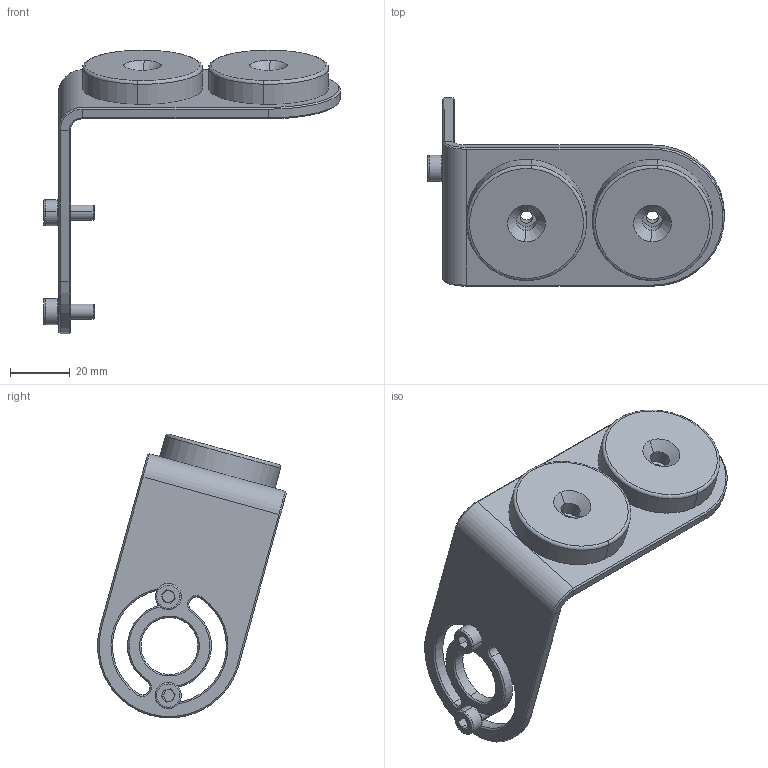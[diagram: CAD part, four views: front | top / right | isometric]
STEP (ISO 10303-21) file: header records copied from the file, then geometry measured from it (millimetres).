
FILE_DESCRIPTION (( 'STEP AP214' ), '1' );
FILE_NAME ('mbx_bracket.STEP', '2015-07-09T19:57:45', ( 'admin' ), ( '' ), 'SwSTEP 2.0', 'SolidWorks 2014', '' );
FILE_SCHEMA (( 'AUTOMOTIVE_DESIGN' ));
Length unit declared in the file: millimetre
Products named in the file (1): mbx_bracket
Bounding box: 99 x 62.89 x 94.54 mm (x, y, z)
Surface area: 21882.2 mm2 (no closed solid volume)
Topology: 0 solids, 5 shells, 121 faces, 296 edges, 181 vertices
Faces by surface type: plane 38, cylinder 37, cone 26, torus 20
Entity records: 4897 total; most frequent: DIRECTION 689, CARTESIAN_POINT 599, ORIENTED_EDGE 540, EDGE_CURVE 296, AXIS2_PLACEMENT_3D 271, VERTEX_POINT 181, CIRCLE 149, VECTOR 147
